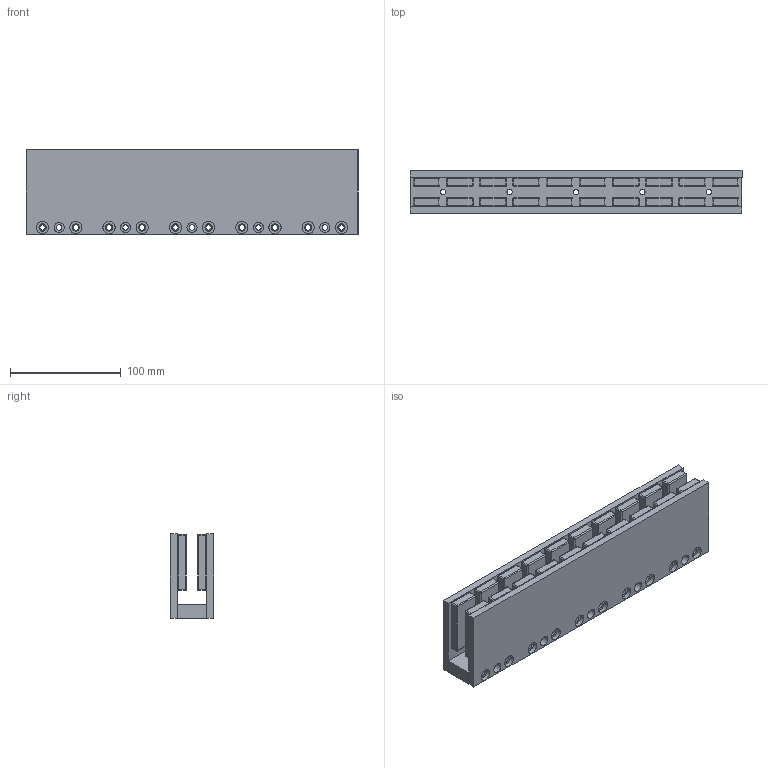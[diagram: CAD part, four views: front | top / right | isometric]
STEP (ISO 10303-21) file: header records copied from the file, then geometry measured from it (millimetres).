
FILE_DESCRIPTION (( 'STEP AP214' ), '1' );
FILE_NAME ('JKB4-300¶¨×Ó.STEP', '2025-09-05T12:48:32', ( '' ), ( '' ), 'SwSTEP 2.0', 'SolidWorks 2016', '' );
FILE_SCHEMA (( 'AUTOMOTIVE_DESIGN' ));
Length unit declared in the file: millimetre
Products named in the file (1): JKB4-300隅赽
Bounding box: 300 x 39 x 76.2 mm (x, y, z)
Volume: 564986.1 mm3; surface area: 204266.6 mm2
Topology: 23 solids, 23 shells, 758 faces, 1716 edges, 854 vertices
Faces by surface type: cylinder 400, sphere 160, plane 158, cone 40
Entity records: 28370 total; most frequent: DIRECTION 3834, CARTESIAN_POINT 3289, ORIENTED_EDGE 3112, AXIS2_PLACEMENT_3D 1559, EDGE_CURVE 1556, EDGE_LOOP 878, VERTEX_POINT 854, CIRCLE 800
